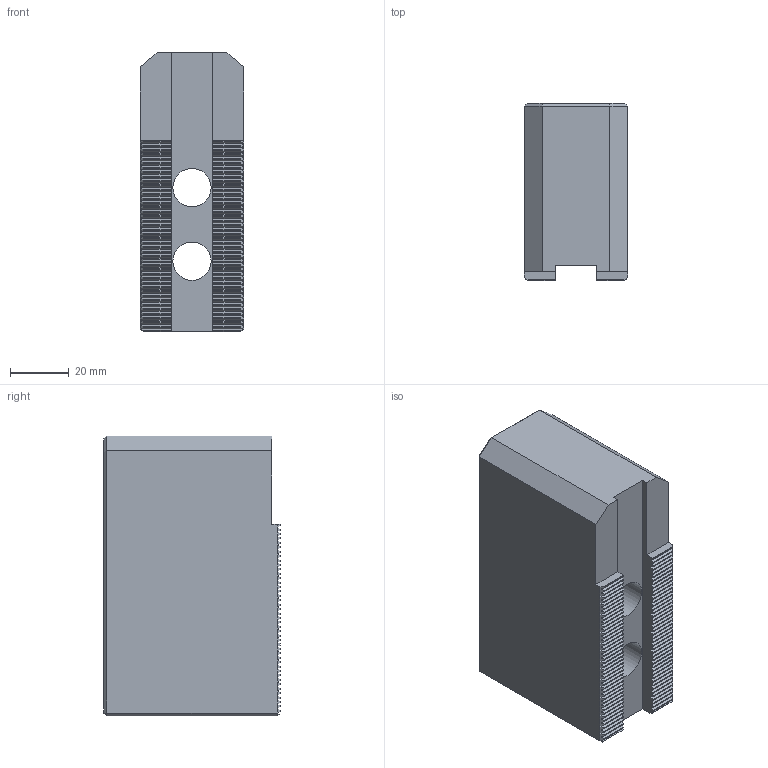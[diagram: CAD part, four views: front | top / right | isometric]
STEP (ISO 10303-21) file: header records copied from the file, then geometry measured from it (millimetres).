
FILE_DESCRIPTION(/* description */ (''),/* implementation_level */ '2;1');
FILE_NAME(/* name */ 'SC-08H60.stp',/* time_stamp */ '2024-09-11T15:27:30+03:00',/* author */ ('KanaanMD'),/* organization */ (''),/* preprocessor_version */ 'ST-DEVELOPER v19.2',/* originating_system */ 'Autodesk Inventor 2024',/* authorisation */ '');
FILE_SCHEMA (('AUTOMOTIVE_DESIGN { 1 0 10303 214 3 1 1 }'));
Length unit declared in the file: millimetre
Products named in the file (1): SC-08H60
Bounding box: 35 x 60 x 95 mm (x, y, z)
Volume: 161778.6 mm3; surface area: 28281.8 mm2
Topology: 1 solids, 1 shells, 382 faces, 948 edges, 570 vertices
Faces by surface type: plane 376, cylinder 4, cone 2
Full cylindrical faces by diameter (mm): 13 x2, 19 x2
Entity records: 10907 total; most frequent: CARTESIAN_POINT 1901, ORIENTED_EDGE 1896, DIRECTION 1726, EDGE_CURVE 948, LINE 936, VECTOR 936, VERTEX_POINT 570, AXIS2_PLACEMENT_3D 395
